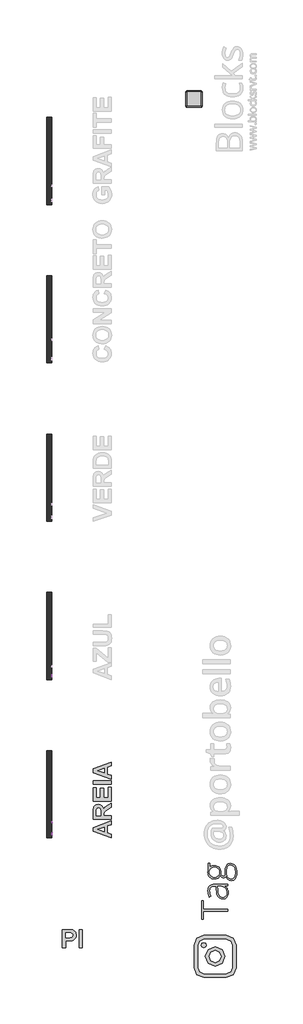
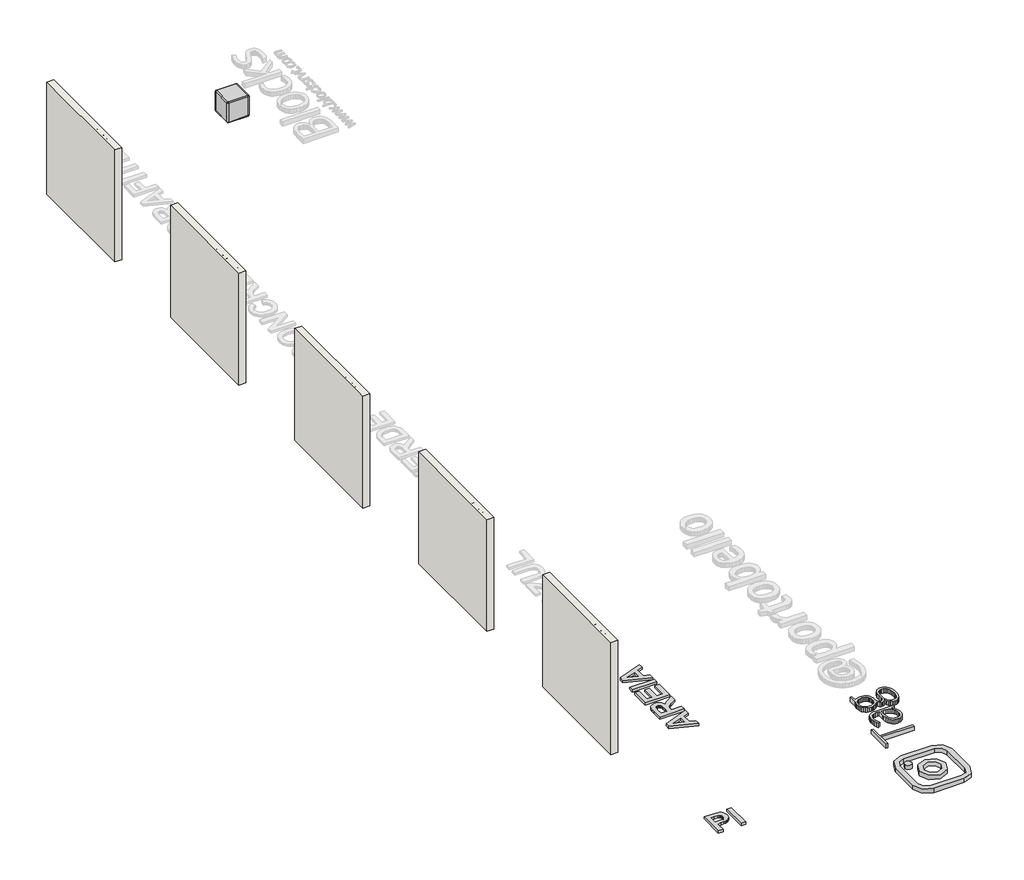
# One storey, part 1 of 6: 7 proxies, 5 walls, 1 furniture element.
"""IFC4 building model written with IfcOpenShell, lengths in millimetres."""

from ifc_helpers import new_model, si_unit, frame, origin, origin_with_axes, place, context, project, spatial, polyline, outline, extrude, transform, mapped, element, save
from components import generic_models_d67f6705, branco_22256ad2

model = new_model("IFC4")

# Units and contexts
model_context = context("Model", 3, world=origin())
ifc_project = project(units=[si_unit("LENGTHUNIT", "METRE", prefix="MILLI")], contexts=[model_context])

# Site, building, storey
site = spatial("IfcSite", under=ifc_project)
building = spatial("IfcBuilding", under=site)
storey = spatial("IfcBuildingStorey", under=building, Name="PORTOBELLO - SHOWROOM", Elevation=0.0)

# Proxies
placement = place(None, origin())
generic_models_shape = generic_models_d67f6705(model_context)
element("IfcBuildingElementProxy", 1, Name="Blks_Instagram1 : Único 2", ObjectType="Blks_Instagram1 : Único 2", at=placement, inside=storey, context=model_context, shape_type="MappedRepresentation", body=[
    mapped(generic_models_shape, transform((-16669.4048077, -12968.2161352, 0.0), x_axis=(-1.0, 0.0, 0.0), y_axis=(0.0, -1.0, 0.0), z_axis=(0.0, 0.0, 1.0))),
])
element("IfcBuildingElementProxy", 2, Name="10mm Arial", ObjectType="10mm Arial", at=placement, inside=storey, context=model_context, shape_type="SweptSolid", body=[
    extrude(outline(polyline([(-9219.6411728, 2518.4745677), (-9179.5420353, 2618.9308778), (-9168.848932, 2618.9308778), (-9128.7497945, 2518.4745677), (-9142.0180718, 2518.4745677), (-9153.5205155, 2549.8671646), (-9194.8949773, 2549.8671646), (-9206.3728955, 2518.4745677), (-9219.6411728, 2518.4745677)]), holes=[polyline([(-9190.2841896, 2562.4242034), (-9158.1067778, 2562.4242034), (-9167.1566748, 2587.121348), (-9174.1954837, 2606.373839), (-9180.4494776, 2589.279589), (-9190.2841896, 2562.4242034)])]), frame((-21726.2609603, 0.0, 0.0), z_axis=(1.0, 0.0, 0.0), x_axis=(0.0, 1.0, 0.0)), (0.0, 0.0, 1.0), 20.0),
    extrude(outline(polyline([(-9116.9039943, 2518.4745677), (-9116.9039943, 2592.2471704), (-9105.9165854, 2592.2471704), (-9105.9165854, 2581.3333379), (-9098.1174871, 2591.3887791), (-9090.2693378, 2593.8168003), (-9077.6632481, 2589.9417766), (-9081.8571029, 2578.6845875), (-9090.6862708, 2581.2597615), (-9097.7863933, 2578.7826894), (-9102.3113418, 2571.9155588), (-9104.3469555, 2557.24933), (-9104.3469555, 2518.4745677), (-9116.9039943, 2518.4745677)])), frame((-21726.2609603, 0.0, 0.0), z_axis=(1.0, 0.0, 0.0), x_axis=(0.0, 1.0, 0.0)), (0.0, 0.0, 1.0), 20.0),
    extrude(outline(polyline([(-9018.1644668, 2540.4493855), (-9005.8526827, 2538.8797557), (-9010.2887264, 2529.602998), (-9017.3673891, 2522.6684224), (-9026.9292553, 2518.345809), (-9038.8149094, 2516.9049378), (-9053.5485834, 2519.391207), (-9064.8854802, 2526.8500144), (-9072.1143614, 2538.7969822), (-9074.5239884, 2554.7477324), (-9072.0898359, 2571.2349771), (-9064.7873783, 2583.5651553), (-9053.6037657, 2591.253889), (-9039.526148, 2593.8168003), (-9025.886923, 2591.2600204), (-9014.9884189, 2583.5896808), (-9007.8423111, 2571.2840281), (-9005.4602752, 2554.8213088), (-9005.5338516, 2551.4367944), (-9061.9669497, 2551.4367944), (-9059.7933802, 2542.0374095), (-9054.7441998, 2535.1273593), (-9047.4570707, 2530.8783223), (-9038.5696548, 2529.4619766), (-9026.2578707, 2532.0862015), (-9018.1644668, 2540.4493855)]), holes=[polyline([(-9061.9669497, 2563.9938332), (-9018.017314, 2563.9938332), (-9023.0450346, 2575.3736496), (-9030.3658863, 2579.7882335), (-9039.5751989, 2581.2597615), (-9055.0385054, 2576.5631347), (-9059.9037448, 2571.0724959), (-9061.9669497, 2563.9938332)])]), frame((-21726.2609603, 0.0, 0.0), z_axis=(1.0, 0.0, 0.0), x_axis=(0.0, 1.0, 0.0)), (0.0, 0.0, 1.0), 20.0),
    extrude(outline(polyline([(-21706.2609603, -8980.3461977), (-21706.2609603, -8992.9032364), (-21726.2609603, -8992.9032364), (-21726.2609603, -8980.3461977), (-21706.2609603, -8980.3461977)])), frame((0.0, 0.0, 2606.373839), z_axis=(0.0, 0.0, 1.0), x_axis=(1.0, 0.0, 0.0)), (0.0, 0.0, 1.0), 12.5570388),
    extrude(outline(polyline([(-21706.2609603, -8980.3461977), (-21706.2609603, -8992.9032364), (-21726.2609603, -8992.9032364), (-21726.2609603, -8980.3461977), (-21706.2609603, -8980.3461977)])), frame((0.0, 0.0, 2518.4745677), z_axis=(0.0, 0.0, 1.0), x_axis=(1.0, 0.0, 0.0)), (0.0, 0.0, 1.0), 73.7726028),
    extrude(outline(polyline([(-8914.4217441, 2527.8923467), (-8926.5986382, 2519.3820099), (-8940.0508565, 2516.9049378), (-8950.5446904, 2518.3948599), (-8958.2855407, 2522.8646261), (-8963.0588096, 2529.6520489), (-8964.6498992, 2538.0949407), (-8962.2464035, 2548.0277546), (-8955.9310959, 2555.2382417), (-8947.1387162, 2559.3585201), (-8936.2739347, 2561.246981), (-8914.4953205, 2565.563463), (-8914.4217441, 2568.3593662), (-8917.8798349, 2577.6299925), (-8931.7612489, 2581.2597615), (-8944.4654404, 2578.8440031), (-8950.5232306, 2570.2723526), (-8963.0802694, 2571.8419824), (-8957.6478786, 2584.1047156), (-8946.7095206, 2591.2906772), (-8930.1425681, 2593.8168003), (-8914.9245162, 2591.5849828), (-8906.3283403, 2585.9809138), (-8902.477842, 2577.4583142), (-8901.8647054, 2566.4709053), (-8901.8647054, 2550.8481832), (-8901.2270433, 2529.0327809), (-8898.7254457, 2518.4745677), (-8911.2824845, 2518.4745677), (-8914.4217441, 2527.8923467)]), holes=[polyline([(-8914.4217441, 2553.0064243), (-8934.6797793, 2549.1559261), (-8945.4832473, 2547.1203124), (-8950.3760778, 2543.8093744), (-8952.0928605, 2538.9778575), (-8948.3527268, 2532.1843033), (-8937.3775806, 2529.4619766), (-8924.6733891, 2532.4663462), (-8916.4818833, 2539.738147), (-8914.4953205, 2549.4502317), (-8914.4217441, 2553.0064243)])]), frame((-21726.2609603, 0.0, 0.0), z_axis=(1.0, 0.0, 0.0), x_axis=(0.0, 1.0, 0.0)), (0.0, 0.0, 1.0), 20.0),
])
element("IfcBuildingElementProxy", 3, Name="10mm Arial", ObjectType="10mm Arial", at=placement, inside=storey, context=model_context, shape_type="SweptSolid", body=[
    extrude(outline(polyline([(-4319.6411728, 2518.4745677), (-4279.5420353, 2618.9308778), (-4268.848932, 2618.9308778), (-4228.7497945, 2518.4745677), (-4242.0180718, 2518.4745677), (-4253.5205155, 2549.8671646), (-4294.8949773, 2549.8671646), (-4306.3728955, 2518.4745677), (-4319.6411728, 2518.4745677)]), holes=[polyline([(-4290.2841896, 2562.4242034), (-4258.1067778, 2562.4242034), (-4267.1566748, 2587.121348), (-4274.1954837, 2606.373839), (-4280.4494776, 2589.279589), (-4290.2841896, 2562.4242034)])]), frame((-21726.2609603, 0.0, 0.0), z_axis=(1.0, 0.0, 0.0), x_axis=(0.0, 1.0, 0.0)), (0.0, 0.0, 1.0), 20.0),
    extrude(outline(polyline([(-4224.7521435, 2518.4745677), (-4224.7521435, 2530.2958424), (-4181.4156445, 2579.6901317), (-4194.2424634, 2579.6901317), (-4221.6128838, 2579.6901317), (-4221.6128838, 2592.2471704), (-4163.5365795, 2592.2471704), (-4163.5365795, 2581.5785926), (-4201.9679853, 2537.7515842), (-4207.8540972, 2531.0316064), (-4193.3350211, 2531.0316064), (-4161.9669497, 2531.0316064), (-4161.9669497, 2518.4745677), (-4224.7521435, 2518.4745677)])), frame((-21726.2609603, 0.0, 0.0), z_axis=(1.0, 0.0, 0.0), x_axis=(0.0, 1.0, 0.0)), (0.0, 0.0, 1.0), 20.0),
    extrude(outline(polyline([(-4102.3210155, 2518.4745677), (-4102.3210155, 2531.1542338), (-4112.1557275, 2520.4672618), (-4124.9825464, 2516.9049378), (-4136.7915585, 2519.4065354), (-4144.9340133, 2525.6850548), (-4148.6741469, 2534.9311556), (-4149.4099109, 2546.6052776), (-4149.4099109, 2592.2471704), (-4136.8528721, 2592.2471704), (-4136.8528721, 2552.5159149), (-4136.0925827, 2539.7136215), (-4131.1261757, 2532.1965661), (-4121.7697103, 2529.4619766), (-4111.2850735, 2532.2578797), (-4104.3566292, 2539.873037), (-4102.3210155, 2553.8648156), (-4102.3210155, 2592.2471704), (-4089.7639768, 2592.2471704), (-4089.7639768, 2518.4745677), (-4102.3210155, 2518.4745677)])), frame((-21726.2609603, 0.0, 0.0), z_axis=(1.0, 0.0, 0.0), x_axis=(0.0, 1.0, 0.0)), (0.0, 0.0, 1.0), 20.0),
    extrude(outline(polyline([(-21706.2609603, -4059.9410097), (-21706.2609603, -4072.4980485), (-21726.2609603, -4072.4980485), (-21726.2609603, -4059.9410097), (-21706.2609603, -4059.9410097)])), frame((0.0, 0.0, 2518.4745677), z_axis=(0.0, 0.0, 1.0), x_axis=(1.0, 0.0, 0.0)), (0.0, 0.0, 1.0), 100.4563101),
])
element("IfcBuildingElementProxy", 4, Name="10mm Arial Narrow", ObjectType="10mm Arial Narrow", at=placement, inside=storey, context=model_context, shape_type="SweptSolid", body=[
    extrude(outline(polyline([(-8845.6286257, 2518.4745677), (-8845.6286257, 2619.1931714), (-8814.3317411, 2619.1931714), (-8798.0360395, 2617.3148507), (-8786.5630534, 2607.8344075), (-8782.273375, 2590.8152987), (-8784.0596834, 2578.7394731), (-8789.4186086, 2569.1130794), (-8799.1623974, 2562.811821), (-8814.1032966, 2560.7114015), (-8835.8816641, 2560.7114015), (-8835.8816641, 2518.4745677), (-8845.6286257, 2518.4745677)]), holes=[polyline([(-8835.8816641, 2572.0828568), (-8812.9103091, 2572.0828568), (-8797.0461137, 2576.613671), (-8792.0203366, 2590.2822617), (-8794.4951511, 2600.4480381), (-8800.47278, 2606.247988), (-8813.1387536, 2607.8217162), (-8835.8816641, 2607.8217162), (-8835.8816641, 2572.0828568)])]), frame((-21726.2609603, 0.0, 0.0), z_axis=(1.0, 0.0, 0.0), x_axis=(0.0, 1.0, 0.0)), (0.0, 0.0, 1.0), 20.0),
    extrude(outline(polyline([(-8774.1509069, 2555.0256739), (-8772.1964381, 2571.6164494), (-8766.3330315, 2583.5685342), (-8757.4744647, 2590.7930888), (-8746.5345156, 2593.2012737), (-8735.72148, 2590.7930888), (-8726.8375306, 2583.5685342), (-8720.8979758, 2571.8068198), (-8718.9181242, 2555.7871552), (-8720.8630746, 2538.6252687), (-8726.6979257, 2526.4828135), (-8735.5469739, 2519.2582589), (-8746.5345156, 2516.8500741), (-8757.3951438, 2519.2646046), (-8766.2695747, 2526.5081962), (-8772.1805739, 2538.4666267), (-8774.1509069, 2555.0256739)]), holes=[polyline([(-8764.4039453, 2555.0510566), (-8763.0999084, 2542.4993052), (-8759.1877978, 2533.6280471), (-8753.3466011, 2528.3547886), (-8746.2553058, 2526.5970357), (-8739.5352326, 2528.3706528), (-8733.8431593, 2533.6915039), (-8729.9596042, 2542.5786262), (-8728.6650859, 2555.0510566), (-8729.9691228, 2567.5647339), (-8733.8812333, 2576.4233006), (-8739.7224301, 2581.6965592), (-8746.8137254, 2583.454312), (-8753.5813912, 2581.6870407), (-8759.263946, 2576.3852265), (-8763.1189455, 2567.5171413), (-8764.4039453, 2555.0510566)])]), frame((-21726.2609603, 0.0, 0.0), z_axis=(1.0, 0.0, 0.0), x_axis=(0.0, 1.0, 0.0)), (0.0, 0.0, 1.0), 20.0),
    extrude(outline(polyline([(-8647.4404054, 2526.5970357), (-8645.8159118, 2516.8500741), (-8653.1768985, 2516.8500741), (-8661.4516628, 2518.9695306), (-8665.766724, 2524.7694804), (-8666.9343288, 2539.4153056), (-8666.9343288, 2581.8298184), (-8675.0567968, 2581.8298184), (-8675.0567968, 2585.0788056), (-8676.6812904, 2580.2053248), (-8684.2453388, 2581.8298184), (-8690.3244985, 2579.5073002), (-8694.1953621, 2573.0220171), (-8696.1752137, 2557.6147106), (-8696.1752137, 2518.4745677), (-8705.9221754, 2518.4745677), (-8705.9221754, 2591.5767801), (-8696.1752137, 2591.5767801), (-8696.1752137, 2581.8805838), (-8689.9310664, 2590.967595), (-8683.5346228, 2593.2012737), (-8675.0567968, 2591.5767801), (-8666.9343288, 2591.5767801), (-8666.9343288, 2607.8217162), (-8657.1873671, 2615.9441842), (-8657.1873671, 2591.5767801), (-8647.4404054, 2591.5767801), (-8647.4404054, 2581.8298184), (-8657.1873671, 2581.8298184), (-8657.1873671, 2537.1816269), (-8656.3243549, 2529.1860724), (-8651.7047012, 2526.5970357), (-8647.4404054, 2526.5970357)])), frame((-21726.2609603, 0.0, 0.0), z_axis=(1.0, 0.0, 0.0), x_axis=(0.0, 1.0, 0.0)), (0.0, 0.0, 1.0), 20.0),
    extrude(outline(polyline([(-8640.942431, 2555.0256739), (-8638.9879621, 2571.6164494), (-8633.1245555, 2583.5685342), (-8624.2659888, 2590.7930888), (-8613.3260397, 2593.2012737), (-8602.5130041, 2590.7930888), (-8593.6290547, 2583.5685342), (-8587.6894999, 2571.8068198), (-8585.7096483, 2555.7871552), (-8587.6545987, 2538.6252687), (-8593.4894497, 2526.4828135), (-8602.3384979, 2519.2582589), (-8613.3260397, 2516.8500741), (-8624.1866678, 2519.2646046), (-8633.0610987, 2526.5081962), (-8638.9720979, 2538.4666267), (-8640.942431, 2555.0256739)]), holes=[polyline([(-8631.1954694, 2555.0510566), (-8629.8914325, 2542.4993052), (-8625.9793219, 2533.6280471), (-8620.1381252, 2528.3547886), (-8613.0468298, 2526.5970357), (-8606.3267567, 2528.3706528), (-8600.6346833, 2533.6915039), (-8596.7511283, 2542.5786262), (-8595.45661, 2555.0510566), (-8596.7606468, 2567.5647339), (-8600.6727574, 2576.4233006), (-8606.5139542, 2581.6965592), (-8613.6052495, 2583.454312), (-8620.3729153, 2581.6870407), (-8626.05547, 2576.3852265), (-8629.9104695, 2567.5171413), (-8631.1954694, 2555.0510566)])]), frame((-21726.2609603, 0.0, 0.0), z_axis=(1.0, 0.0, 0.0), x_axis=(0.0, 1.0, 0.0)), (0.0, 0.0, 1.0), 20.0),
    extrude(outline(polyline([(-8562.9667378, 2518.4745677), (-8572.7136994, 2518.4745677), (-8572.7136994, 2619.1931714), (-8562.9667378, 2619.1931714), (-8562.9667378, 2583.7842873), (-8555.5676771, 2590.8660641), (-8546.3664437, 2593.2012737), (-8533.4847171, 2589.0004347), (-8524.2073356, 2576.2710043), (-8520.729904, 2555.5840935), (-8522.662163, 2539.1297501), (-8528.45894, 2526.927011), (-8536.8320623, 2519.3693083), (-8546.4933573, 2516.8500741), (-8555.8341955, 2519.4644935), (-8562.9667378, 2527.2316035), (-8562.9667378, 2518.4745677)]), holes=[polyline([(-8562.9667378, 2555.5840935), (-8560.8853553, 2538.3365403), (-8554.996566, 2529.6048872), (-8546.5441227, 2526.5970357), (-8540.6013951, 2528.3865169), (-8535.3630378, 2533.7549607), (-8530.4768656, 2555.1779701), (-8535.1853588, 2576.613671), (-8540.4300618, 2581.7441518), (-8546.7471844, 2583.454312), (-8552.7248132, 2581.6648308), (-8558.0171088, 2576.2963871), (-8562.9667378, 2555.5840935)])]), frame((-21726.2609603, 0.0, 0.0), z_axis=(1.0, 0.0, 0.0), x_axis=(0.0, 1.0, 0.0)), (0.0, 0.0, 1.0), 20.0),
    extrude(outline(polyline([(-8468.7461085, 2541.2174782), (-8458.9991468, 2539.5929846), (-8462.6986772, 2529.706418), (-8468.5176641, 2522.5865671), (-8476.2213173, 2518.2841973), (-8485.5748469, 2516.8500741), (-8497.1684009, 2519.2646046), (-8506.3125232, 2526.5081962), (-8512.2520779, 2538.3143304), (-8514.2319295, 2554.4164888), (-8512.2425594, 2571.0834124), (-8506.2744491, 2583.2639417), (-8497.2604133, 2590.7169407), (-8486.1332666, 2593.2012737), (-8475.4503174, 2590.8026073), (-8466.7028001, 2583.6066083), (-8460.867949, 2571.8671037), (-8458.9229987, 2555.8379207), (-8458.9991468, 2552.5889335), (-8504.4849679, 2552.5889335), (-8498.4819563, 2533.1457756), (-8492.5519201, 2528.2342207), (-8485.4479334, 2526.5970357), (-8475.2694656, 2530.2521463), (-8468.7461085, 2541.2174782)]), holes=[polyline([(-8503.8250173, 2562.3358951), (-8468.7461085, 2562.3358951), (-8473.0104042, 2576.6009796), (-8478.8357367, 2581.7409789), (-8486.0571185, 2583.454312), (-8498.2662033, 2577.7432017), (-8503.8250173, 2562.3358951)])]), frame((-21726.2609603, 0.0, 0.0), z_axis=(1.0, 0.0, 0.0), x_axis=(0.0, 1.0, 0.0)), (0.0, 0.0, 1.0), 20.0),
    extrude(outline(polyline([(-21706.2609603, -8436.2562363), (-21706.2609603, -8446.0031979), (-21726.2609603, -8446.0031979), (-21726.2609603, -8436.2562363), (-21706.2609603, -8436.2562363)])), frame((0.0, 0.0, 2518.4745677), z_axis=(0.0, 0.0, 1.0), x_axis=(1.0, 0.0, 0.0)), (0.0, 0.0, 1.0), 100.7186038),
    extrude(outline(polyline([(-21706.2609603, -8410.2643385), (-21706.2609603, -8420.0113002), (-21726.2609603, -8420.0113002), (-21726.2609603, -8410.2643385), (-21706.2609603, -8410.2643385)])), frame((0.0, 0.0, 2518.4745677), z_axis=(0.0, 0.0, 1.0), x_axis=(1.0, 0.0, 0.0)), (0.0, 0.0, 1.0), 100.7186038),
    extrude(outline(polyline([(-8398.8928833, 2555.0256739), (-8396.9384144, 2571.6164494), (-8391.0750078, 2583.5685342), (-8382.2164411, 2590.7930888), (-8371.2764919, 2593.2012737), (-8360.4634563, 2590.7930888), (-8351.5795069, 2583.5685342), (-8345.6399522, 2571.8068198), (-8343.6601006, 2555.7871552), (-8345.6050509, 2538.6252687), (-8351.439902, 2526.4828135), (-8360.2889502, 2519.2582589), (-8371.2764919, 2516.8500741), (-8382.1371201, 2519.2646046), (-8391.011551, 2526.5081962), (-8396.9225502, 2538.4666267), (-8398.8928833, 2555.0256739)]), holes=[polyline([(-8389.1459216, 2555.0510566), (-8387.8418848, 2542.4993052), (-8383.9297742, 2533.6280471), (-8378.0885774, 2528.3547886), (-8370.9972821, 2526.5970357), (-8364.2772089, 2528.3706528), (-8358.5851356, 2533.6915039), (-8354.7015806, 2542.5786262), (-8353.4070622, 2555.0510566), (-8354.7110991, 2567.5647339), (-8358.6232097, 2576.4233006), (-8364.4644064, 2581.6965592), (-8371.5557018, 2583.454312), (-8378.3233675, 2581.6870407), (-8384.0059223, 2576.3852265), (-8387.8609218, 2567.5171413), (-8389.1459216, 2555.0510566)])]), frame((-21726.2609603, 0.0, 0.0), z_axis=(1.0, 0.0, 0.0), x_axis=(0.0, 1.0, 0.0)), (0.0, 0.0, 1.0), 20.0),
])
element("IfcBuildingElementProxy", 5, Name="550mm Arial", ObjectType="550mm Arial", at=placement, inside=storey, context=model_context, shape_type="SweptSolid", body=[
    extrude(outline(polyline([(-21399.233027, -12697.8860812), (-21399.233027, -12136.7434112), (-21218.4482234, -12136.7434112), (-21133.5183339, -12138.8309956), (-21084.4253089, -12145.0937486), (-21061.3966442, -12153.2048836), (-21040.3250898, -12165.0127825), (-21021.2106457, -12180.5174453), (-21004.0533119, -12199.7188721), (-20989.8968806, -12222.2952269), (-20979.785144, -12247.9246738), (-20973.718102, -12276.6072127), (-20971.6957547, -12308.3428438), (-20976.445009, -12355.6092325), (-20990.6927721, -12394.6992492), (-21012.264477, -12425.9434282), (-21038.9855565, -12449.6723035), (-21068.5074783, -12466.2859955), (-21098.4817101, -12476.1846245), (-21148.7576996, -12482.1342399), (-21217.4740174, -12484.117445), (-21292.3487089, -12484.117445), (-21292.3487089, -12697.8860812), (-21399.233027, -12697.8860812)]), holes=[polyline([(-21292.3487089, -12234.7207028), (-21292.3487089, -12386.1401534), (-21225.963527, -12386.1401534), (-21166.1716323, -12384.0525691), (-21130.1434059, -12377.7898161), (-21108.6064941, -12367.0561533), (-21092.2885432, -12351.5558396), (-21082.0071904, -12332.2282879), (-21078.5800727, -12310.0129113), (-21083.3989133, -12283.4657971), (-21097.8554348, -12261.9984715), (-21119.6532946, -12246.6199335), (-21146.4961499, -12238.3391823), (-21233.7571752, -12234.7207028), (-21292.3487089, -12234.7207028)])]), origin_with_axes(), (0.0, 0.0, 1.0), 50.0),
    extrude(outline(polyline([(-20882.6254896, -12697.8860812), (-20882.6254896, -12136.7434112), (-20775.7411715, -12136.7434112), (-20775.7411715, -12697.8860812), (-20882.6254896, -12697.8860812)])), origin_with_axes(), (0.0, 0.0, 1.0), 50.0),
])
element("IfcBuildingElementProxy", 6, Name="550mm Arial", ObjectType="550mm Arial", at=placement, inside=storey, context=model_context, shape_type="SweptSolid", body=[
    extrude(outline(polyline([(-19883.4014648, -8772.058402), (-19883.4014648, -8884.3704393), (-20008.0998359, -8928.3488827), (-20008.0998359, -9140.3082791), (-19883.4014648, -9183.7300334), (-19883.4014648, -9297.5729659), (-20444.5441347, -9092.7113562), (-20444.5441347, -8978.8684237), (-19883.4014648, -8772.058402)]), holes=[polyline([(-20106.0771275, -8962.5852658), (-20310.9387371, -9034.8156839), (-20106.0771275, -9106.071896), (-20106.0771275, -8962.5852658)])]), origin_with_axes(), (0.0, 0.0, 1.0), 50.0),
    extrude(outline(polyline([(-19883.4014648, -8718.6162429), (-20444.5441347, -8718.6162429), (-20444.5441347, -8482.5800405), (-20440.7516899, -8405.6873507), (-20429.3743552, -8353.1498115), (-20420.3107599, -8333.9788287), (-20408.2897534, -8316.825844), (-20393.3113358, -8301.6908576), (-20375.375507, -8288.5738693), (-20355.256413, -8277.9793788), (-20333.7281995, -8270.4118856), (-20310.7908666, -8265.8713897), (-20286.4444142, -8264.357891), (-20256.0961569, -8266.5455054), (-20228.5139489, -8273.1083487), (-20203.6977901, -8284.0464208), (-20181.6476805, -8299.3597218), (-20162.8942145, -8319.030855), (-20147.9679865, -8343.042424), (-20136.8689964, -8371.3944288), (-20129.5972443, -8404.0868694), (-20107.2600919, -8373.0862419), (-20082.8353552, -8348.0004368), (-20047.4508006, -8322.0448049), (-19992.2341949, -8288.4346971), (-19883.4014648, -8219.8227585), (-19883.4014648, -8344.6603019), (-20011.5791431, -8425.9369188), (-20087.6367991, -8489.7474134), (-20100.8407701, -8507.4570872), (-20109.1389178, -8526.2105531), (-20113.5228449, -8551.1049963), (-20114.984154, -8587.2376019), (-20114.984154, -8611.7319248), (-19883.4014648, -8611.7319248), (-19883.4014648, -8718.6162429)]), holes=[polyline([(-20212.9614455, -8611.7319248), (-20212.9614455, -8523.6358658), (-20214.5793234, -8454.1019108), (-20219.432957, -8416.6819615), (-20228.2356043, -8397.650151), (-20241.7005233, -8383.2806121), (-20259.4623867, -8374.2518099), (-20281.1558672, -8371.2422091), (-20305.1804837, -8375.2086194), (-20324.0905185, -8387.1078501), (-20337.4336617, -8406.2440398), (-20344.7576034, -8431.9213272), (-20346.5668432, -8518.7648356), (-20346.5668432, -8611.7319248), (-20212.9614455, -8611.7319248)])]), origin_with_axes(), (0.0, 0.0, 1.0), 50.0),
    extrude(outline(polyline([(-19883.4014648, -8157.4735729), (-20444.5441347, -8157.4735729), (-20444.5441347, -7738.8433271), (-20346.5668432, -7738.8433271), (-20346.5668432, -8050.5892548), (-20221.8684721, -8050.5892548), (-20221.8684721, -7756.6573801), (-20123.8911805, -7756.6573801), (-20123.8911805, -8050.5892548), (-19981.3787564, -8050.5892548), (-19981.3787564, -7729.9363006), (-19883.4014648, -7729.9363006), (-19883.4014648, -8157.4735729)])), origin_with_axes(), (0.0, 0.0, 1.0), 50.0),
    extrude(outline(polyline([(-19883.4014648, -7640.8660355), (-20444.5441347, -7640.8660355), (-20444.5441347, -7533.9817174), (-19883.4014648, -7533.9817174), (-19883.4014648, -7640.8660355)])), origin_with_axes(), (0.0, 0.0, 1.0), 50.0),
    extrude(outline(polyline([(-19883.4014648, -6955.0249944), (-19883.4014648, -7067.3370318), (-20008.0998359, -7111.3154752), (-20008.0998359, -7323.2748716), (-19883.4014648, -7366.6966258), (-19883.4014648, -7480.5395584), (-20444.5441347, -7275.6779487), (-20444.5441347, -7161.8350161), (-19883.4014648, -6955.0249944)]), holes=[polyline([(-20106.0771275, -7145.5518583), (-20310.9387371, -7217.7822764), (-20106.0771275, -7289.0384884), (-20106.0771275, -7145.5518583)])]), origin_with_axes(), (0.0, 0.0, 1.0), 50.0),
])
element("IfcBuildingElementProxy", 7, Name="80mm OpenSans Light", ObjectType="80mm OpenSans Light", at=placement, inside=storey, context=model_context, shape_type="SweptSolid", body=[
    extrude(outline(polyline([(-16277.691823, -11506.7201953), (-16277.691823, -11563.206342), (-17031.4814236, -11563.206342), (-17031.4814236, -11821.8407841), (-17077.6318073, -11821.8407841), (-17077.6318073, -11248.3261198), (-17031.4814236, -11248.3261198), (-17031.4814236, -11506.7201953), (-16277.691823, -11506.7201953)])), origin_with_axes(), (0.0, 0.0, 1.0), 100.0),
    extrude(outline(polyline([(-16277.691823, -10776.7268863), (-16373.3577225, -10790.4277814), (-16373.3577225, -10794.7543799), (-16345.1822523, -10817.6267625), (-16321.4685867, -10840.8146262), (-16302.2167258, -10864.317971), (-16287.4266695, -10888.136797), (-16276.4374099, -10913.2025246), (-16268.5879387, -10940.4465743), (-16263.878256, -10969.8689462), (-16262.3083617, -11001.4696403), (-16265.2002722, -11043.3535172), (-16273.8760035, -11080.3098791), (-16288.3355557, -11112.3387262), (-16308.5789287, -11139.4400583), (-16333.9300917, -11160.9979361), (-16363.7130134, -11176.3964202), (-16397.9276941, -11185.6355107), (-16436.5741336, -11188.7152075), (-16478.796026, -11184.1257081), (-16516.0453347, -11170.3572098), (-16548.3220598, -11147.4097127), (-16575.6262012, -11115.2832168), (-16597.5220945, -11074.4734781), (-16613.5740753, -11025.4762526), (-16623.7821435, -10968.2915405), (-16628.1462993, -10902.9193417), (-16631.5114314, -10788.2644822), (-16671.8930172, -10788.2644822), (-16712.5149695, -10790.4428043), (-16747.848857, -10796.9777708), (-16777.8946798, -10807.8693815), (-16802.6524377, -10823.1176366), (-16822.0019475, -10843.218292), (-16835.823026, -10868.6671038), (-16844.1156731, -10899.4640721), (-16846.8798888, -10935.6091969), (-16843.9954898, -10977.8085549), (-16835.3422928, -11020.7590585), (-16820.9202979, -11064.4607076), (-16800.729505, -11108.9135024), (-16847.8413551, -11129.3446618), (-16867.6115064, -11079.9793751), (-16881.7330431, -11030.9145466), (-16890.2059651, -10982.1501763), (-16893.0302725, -10933.6862642), (-16889.7928351, -10887.3030254), (-16880.0805229, -10847.1843406), (-16863.8933359, -10813.3302098), (-16841.2312741, -10785.7406331), (-16811.7187647, -10764.3404959), (-16774.980235, -10749.0546835), (-16731.0156849, -10739.8831962), (-16679.8251144, -10736.8260337), (-16277.691823, -10736.8260337), (-16277.691823, -10776.7268863)]), holes=[polyline([(-16308.4587455, -10998.5852413), (-16312.0266869, -10952.8254533), (-16322.7305112, -10912.1734551), (-16340.5702185, -10876.6292468), (-16365.5458086, -10846.1928284), (-16396.8610674, -10821.7956204), (-16433.7197804, -10804.3690432), (-16476.1219477, -10793.9130969), (-16524.0675694, -10790.4277814), (-16585.3610477, -10790.4277814), (-16580.7940827, -10895.9487109), (-16575.8891021, -10954.9587067), (-16567.4236916, -11004.8347724), (-16555.397851, -11045.5769081), (-16539.8115805, -11077.1851136), (-16520.0339177, -11100.846199), (-16495.4339003, -11117.7469742), (-16466.0115284, -11127.8874394), (-16431.7668019, -11131.2675945), (-16404.1847367, -11129.0967838), (-16379.8476203, -11122.5843517), (-16358.7554527, -11111.7302982), (-16340.908234, -11096.5346234), (-16326.7115828, -11077.3879229), (-16316.5711176, -11054.6807923), (-16310.4868385, -11028.4132318), (-16308.4587455, -10998.5852413)])]), origin_with_axes(), (0.0, 0.0, 1.0), 100.0),
    extrude(outline(polyline([(-16877.6468112, -10080.6252653), (-16839.1881581, -10080.6252653), (-16831.4964275, -10203.9333218), (-16799.3473972, -10182.2702836), (-16765.6359841, -10166.7966849), (-16730.3621882, -10157.5125257), (-16693.5260095, -10154.4178059), (-16650.9360558, -10157.9782359), (-16612.5825631, -10168.6595259), (-16578.4655314, -10186.4616759), (-16548.5849607, -10211.3846858), (-16524.292913, -10242.3168603), (-16506.9414504, -10278.1465039), (-16496.5305728, -10318.8736166), (-16493.0602803, -10364.4981984), (-16496.4254124, -10420.9843452), (-16478.1275064, -10449.3776476), (-16456.8851097, -10470.1393111), (-16433.4794138, -10482.8486942), (-16408.6916101, -10487.0851552), (-16384.3544937, -10481.7069529), (-16375.0252657, -10474.9842001), (-16367.5889246, -10465.5723461), (-16357.854078, -10436.7584021), (-16354.6091292, -10393.3421883), (-16354.6091292, -10289.5038249), (-16352.1453717, -10244.1271211), (-16344.7540993, -10204.3840091), (-16332.435312, -10170.2744889), (-16315.1890097, -10141.7985604), (-16293.1203529, -10119.3468193), (-16266.334502, -10103.3098615), (-16234.8314569, -10093.6876867), (-16198.6112176, -10090.4802951), (-16153.9556135, -10095.2425581), (-16114.6932347, -10109.5293468), (-16080.824081, -10133.3406613), (-16052.3481525, -10166.6765016), (-16029.7912511, -10208.8007451), (-16013.6791787, -10258.977269), (-16004.0119352, -10317.2060735), (-16000.7895207, -10383.4871584), (-16003.5462249, -10436.3302491), (-16011.8163376, -10482.8486942), (-16025.5998588, -10523.0424935), (-16044.8967885, -10556.9116472), (-16069.121233, -10583.7801242), (-16097.687299, -10602.9718934), (-16130.5949864, -10614.486955), (-16167.8442951, -10618.3253088), (-16197.8750949, -10615.9516889), (-16225.2318165, -10608.8308289), (-16249.9144599, -10596.9627289), (-16271.923025, -10580.3473889), (-16290.9570537, -10559.66084), (-16306.7160877, -10535.5791131), (-16319.2001271, -10508.1022082), (-16328.4091717, -10477.2301253), (-16341.8096087, -10501.4470584), (-16359.897194, -10520.2557435), (-16381.8306446, -10532.3341642), (-16406.7686774, -10536.3603044), (-16434.7563613, -10531.5980415), (-16461.0314333, -10517.3112528), (-16485.5938933, -10493.4999383), (-16508.4437415, -10460.164098), (-16521.1981933, -10484.7941612), (-16537.1074564, -10506.5248025), (-16556.1715309, -10525.3560219), (-16578.3904168, -10541.2878194), (-16603.0580373, -10553.9596451), (-16629.4683155, -10563.0109492), (-16657.6212514, -10568.4417317), (-16687.516845, -10570.2519925), (-16731.7292731, -10566.7216083), (-16771.3446904, -10556.1304558), (-16806.3630968, -10538.4785349), (-16836.7844923, -10513.7658458), (-16861.3920211, -10483.043992), (-16878.9688274, -10447.3645775), (-16889.5149112, -10406.7276023), (-16893.0302725, -10361.1330663), (-16889.1844072, -10309.2739763), (-16877.6468112, -10270.5148649), (-16877.6468112, -10080.6252653)]), holes=[polyline([(-16174.5745594, -10560.8776958), (-16144.6601871, -10558.0421213), (-16118.7343978, -10549.5353977), (-16096.7971915, -10535.3575251), (-16078.8485682, -10515.5085035), (-16064.8885278, -10489.9883328), (-16054.9170704, -10458.7970131), (-16048.9341959, -10421.9345443), (-16046.9399044, -10379.4009265), (-16049.3698603, -10324.6987505), (-16056.6597281, -10277.290198), (-16068.8095076, -10237.1752689), (-16085.819199, -10204.3539633), (-16107.6888022, -10178.8262812), (-16134.4183173, -10160.5922225), (-16166.0077442, -10149.6517873), (-16202.4570829, -10146.0049756), (-16228.4241852, -10148.2884581), (-16250.5604451, -10155.1389057), (-16268.8658626, -10166.5563183), (-16283.3404376, -10182.540696), (-16294.3296973, -10203.6328635), (-16302.1791685, -10230.3736458), (-16306.8888512, -10262.7630427), (-16308.4587455, -10300.8010542), (-16308.4587455, -10397.9091533), (-16306.366805, -10436.1049055), (-16300.0909838, -10469.2078906), (-16289.6312818, -10497.2181089), (-16274.9876989, -10520.1355602), (-16256.1602353, -10537.9602445), (-16233.1488908, -10550.6921619), (-16205.9536655, -10558.3313123), (-16174.5745594, -10560.8776958)]), polyline([(-16688.2379447, -10515.2080452), (-16654.7744097, -10512.6015701), (-16625.2919461, -10504.7821448), (-16599.7905541, -10491.7497691), (-16578.2702336, -10473.5044433), (-16561.1816719, -10450.9024731), (-16548.9755564, -10424.8001647), (-16541.6518871, -10395.1975178), (-16539.210664, -10362.0945326), (-16541.6368642, -10327.2413783), (-16548.9154647, -10296.7148224), (-16561.0464657, -10270.5148649), (-16578.029867, -10248.641506), (-16599.6102791, -10231.3952037), (-16625.5323127, -10219.0764164), (-16655.7959677, -10211.685144), (-16690.401244, -10209.2213866), (-16727.1247508, -10211.7602586), (-16758.9357656, -10219.3768747), (-16785.8342884, -10232.0712348), (-16807.8203192, -10249.8433389), (-16824.9088809, -10272.1673852), (-16837.1149964, -10298.5175717), (-16844.4386657, -10328.8938985), (-16846.8798888, -10363.2963655), (-16844.2583907, -10396.7523891), (-16836.3938966, -10426.4526849), (-16823.2864065, -10452.3972528), (-16804.9359202, -10474.5860929), (-16781.9133086, -10492.3581971), (-16754.7894421, -10505.0525572), (-16723.5643208, -10512.6691732), (-16688.2379447, -10515.2080452)])]), origin_with_axes(), (0.0, 0.0, 1.0), 100.0),
])

# Furniture
branco_shape = branco_22256ad2(model_context)
element("IfcFurniture", 8, ObjectType="Blks_Mob_Blocks Revit_Cubo : Branco", at=placement, inside=storey, context=model_context, shape_type="MappedRepresentation", body=[
    mapped(branco_shape, transform((-17323.9911761, 13571.6583301, 0.0), x_axis=(1.0, 0.0, 0.0), y_axis=(0.0, 1.0, 0.0), z_axis=(0.0, 0.0, 1.0))),
])

# Walls
element("IfcWall", 9, ObjectType="PORTOBELLO - PI - AREIA - 10X30 - MATE", at=placement, inside=storey, context=model_context, shape_type="SweptSolid", body=[
    extrude(outline(polyline([(-21726.2609603, -6597.5729659), (-21726.2609603, -9297.5729659), (-21888.2609603, -9297.5729659), (-21888.2609603, -6597.5729659), (-21726.2609603, -6597.5729659)])), origin_with_axes(), (0.0, 0.0, 1.0), 2700.0),
])
element("IfcWall", 10, ObjectType="PORTOBELLO - PI - AZUL - 10X30 - MATE", at=placement, inside=storey, context=model_context, shape_type="SweptSolid", body=[
    extrude(outline(polyline([(-21726.2609603, -1697.5729659), (-21726.2609603, -4397.5729659), (-21888.2609603, -4397.5729659), (-21888.2609603, -1697.5729659), (-21726.2609603, -1697.5729659)])), origin_with_axes(), (0.0, 0.0, 1.0), 2700.0),
])
element("IfcWall", 11, ObjectType="PORTOBELLO - PI - VERDE - 10X30 - MATE", at=placement, inside=storey, context=model_context, shape_type="SweptSolid", body=[
    extrude(outline(polyline([(-21726.2609603, 3202.4270341), (-21726.2609603, 502.4270341), (-21888.2609603, 502.4270341), (-21888.2609603, 3202.4270341), (-21726.2609603, 3202.4270341)])), origin_with_axes(), (0.0, 0.0, 1.0), 2700.0),
])
element("IfcWall", 12, ObjectType="PORTOBELLO - PI - CONCRETO - 10X30 - MATE", at=placement, inside=storey, context=model_context, shape_type="SweptSolid", body=[
    extrude(outline(polyline([(-21726.2609603, 8102.4270341), (-21726.2609603, 5402.4270341), (-21888.2609603, 5402.4270341), (-21888.2609603, 8102.4270341), (-21726.2609603, 8102.4270341)])), origin_with_axes(), (0.0, 0.0, 1.0), 2700.0),
])
element("IfcWall", 13, ObjectType="PORTOBELLO - PI - GRAFITE - 10X30 - MATE", at=placement, inside=storey, context=model_context, shape_type="SweptSolid", body=[
    extrude(outline(polyline([(-21726.2609603, 13002.4270341), (-21726.2609603, 10302.4270341), (-21888.2609603, 10302.4270341), (-21888.2609603, 13002.4270341), (-21726.2609603, 13002.4270341)])), origin_with_axes(), (0.0, 0.0, 1.0), 2700.0),
])

save(model, "model.ifc")
